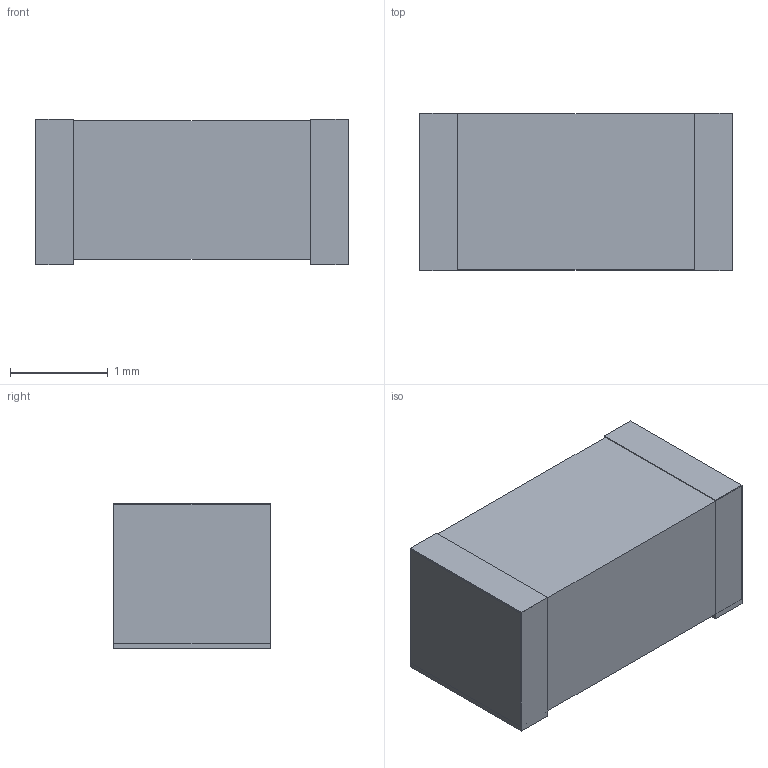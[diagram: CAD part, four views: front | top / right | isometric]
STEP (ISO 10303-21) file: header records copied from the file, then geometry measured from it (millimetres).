
FILE_DESCRIPTION(('FreeCAD Model'),'2;1');
FILE_NAME('Open CASCADE Shape Model','2026-09-23T12:07:02',('FreeCAD'),( 'FreeCAD'),'Open CASCADE STEP processor 7.8','FreeCAD','Unknown');
FILE_SCHEMA(('AUTOMOTIVE_DESIGN { 1 0 10303 214 1 1 1 1 }'));
Length unit declared in the file: millimetre
Products named in the file (1): Open CASCADE STEP translator 7.8 30
Bounding box: 3.2 x 1.61 x 1.49 mm (x, y, z)
Surface area: 38.2 mm2
Topology: 3 solids, 3 shells, 18 faces, 36 edges, 24 vertices
Faces by surface type: plane 18
Entity records: 466 total; most frequent: CARTESIAN_POINT 79, DIRECTION 74, ORIENTED_EDGE 72, EDGE_CURVE 36, LINE 36, VECTOR 36, VERTEX_POINT 24, AXIS2_PLACEMENT_3D 19
